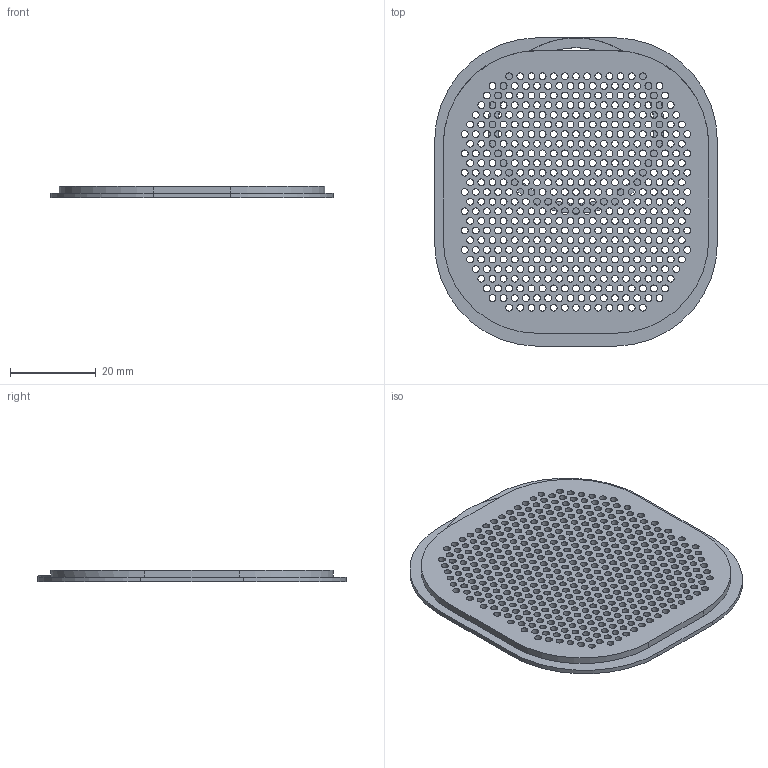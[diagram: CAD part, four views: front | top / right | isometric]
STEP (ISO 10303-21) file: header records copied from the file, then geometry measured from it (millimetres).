
FILE_DESCRIPTION(('Open CASCADE Model'),'2;1');
FILE_NAME('Open CASCADE Shape Model','2026-09-06T11:28:30',('Author'),( 'Open CASCADE'),'Open CASCADE STEP processor 7.7','Open CASCADE 7.7' ,'Unknown');
FILE_SCHEMA(('AUTOMOTIVE_DESIGN { 1 0 10303 214 1 1 1 1 }'));
Products named in the file (1): Open CASCADE STEP translator 7.7 5
Bounding box: 66 x 72 x 2.6 mm (x, y, z)
Volume: 5472.5 mm3; surface area: 11760.2 mm2
Topology: 1 solids, 1 shells, 608 faces, 1772 edges, 1181 vertices
Faces by surface type: cylinder 532, plane 76
Full cylindrical faces by diameter (mm): 1.6 x473, 36.4 x1
Entity records: 48880 total; most frequent: CARTESIAN_POINT 14063, DIRECTION 6358, ORIENTED_EDGE 3544, PCURVE 3544, DEFINITIONAL_REPRESENTATION 3544, LINE 2813, VECTOR 2813, EDGE_CURVE 1772
